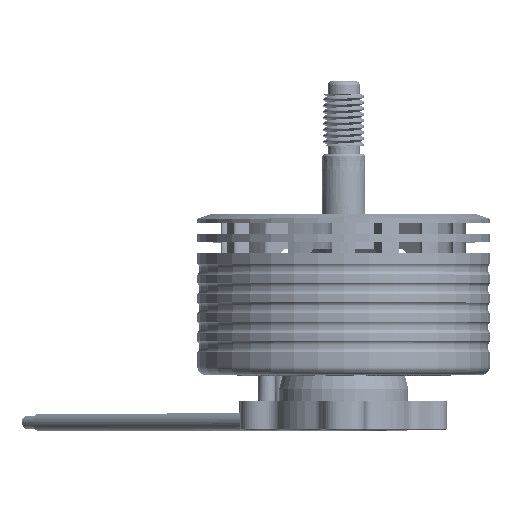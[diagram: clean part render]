
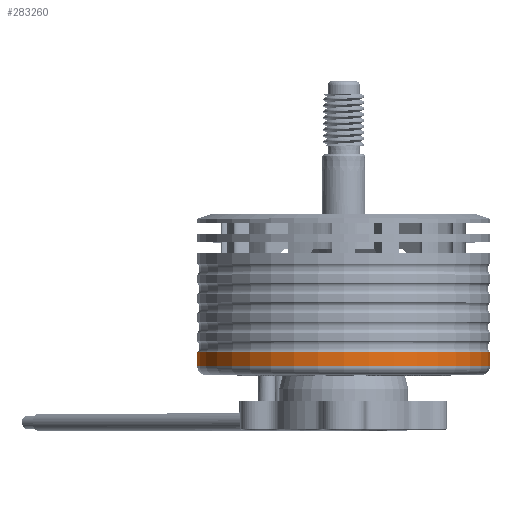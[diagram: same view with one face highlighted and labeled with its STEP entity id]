
A CAD part, top view. The second image highlights one B-rep face of the part: STEP entity #283260.
In plain terms, the highlighted cylindrical face has radius 17 mm (diameter 34 mm), a partial arc.
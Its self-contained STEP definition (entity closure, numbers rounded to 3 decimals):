
#7478 = ORIENTED_EDGE ( 'NONE', *, *, #26896, .T. ) ;
#10502 = DIRECTION ( 'NONE',  ( 1., 0., 0. ) ) ;
#15872 = ORIENTED_EDGE ( 'NONE', *, *, #100730, .F. ) ;
#26896 = EDGE_CURVE ( 'NONE', #247321, #248301, #87580, .T. ) ;
#42703 = VERTEX_POINT ( 'NONE', #162325 ) ;
#44277 = EDGE_LOOP ( 'NONE', ( #15872, #227075, #59670, #7478 ) ) ;
#55473 = CYLINDRICAL_SURFACE ( 'NONE', #293647, 17. ) ;
#58718 = LINE ( 'NONE', #220481, #194841 ) ;
#59670 = ORIENTED_EDGE ( 'NONE', *, *, #100468, .T. ) ;
#67910 = DIRECTION ( 'NONE',  ( 1., 0., 0. ) ) ;
#87580 = CIRCLE ( 'NONE', #92283, 17. ) ;
#88938 = DIRECTION ( 'NONE',  ( 0., -1., 0. ) ) ;
#92283 = AXIS2_PLACEMENT_3D ( 'NONE', #202768, #88938, #67910 ) ;
#100468 = EDGE_CURVE ( 'NONE', #42703, #247321, #58718, .T. ) ;
#100730 = EDGE_CURVE ( 'NONE', #163757, #248301, #259228, .T. ) ;
#103375 = DIRECTION ( 'NONE',  ( 0., 1., 0. ) ) ;
#113609 = AXIS2_PLACEMENT_3D ( 'NONE', #216082, #174098, #265478 ) ;
#119924 = FACE_OUTER_BOUND ( 'NONE', #44277, .T. ) ;
#121404 = DIRECTION ( 'NONE',  ( 0., 1., 0. ) ) ;
#124368 = CARTESIAN_POINT ( 'NONE',  ( 0., -13.808, 0. ) ) ;
#124706 = DIRECTION ( 'NONE',  ( 0., 1., 0. ) ) ;
#140821 = CARTESIAN_POINT ( 'NONE',  ( -17., -10.5, 0. ) ) ;
#158967 = CARTESIAN_POINT ( 'NONE',  ( -17., -12.15, 0. ) ) ;
#162325 = CARTESIAN_POINT ( 'NONE',  ( 17., -12.15, 0. ) ) ;
#163757 = VERTEX_POINT ( 'NONE', #158967 ) ;
#174098 = DIRECTION ( 'NONE',  ( 0., 1., 0. ) ) ;
#187347 = CARTESIAN_POINT ( 'NONE',  ( -17., -12.15, 0. ) ) ;
#194841 = VECTOR ( 'NONE', #124706, 1000. ) ;
#202768 = CARTESIAN_POINT ( 'NONE',  ( 0., -10.5, 0. ) ) ;
#214125 = CIRCLE ( 'NONE', #113609, 17. ) ;
#216082 = CARTESIAN_POINT ( 'NONE',  ( 0., -12.15, 0. ) ) ;
#220481 = CARTESIAN_POINT ( 'NONE',  ( 17., -12.15, 0. ) ) ;
#227075 = ORIENTED_EDGE ( 'NONE', *, *, #233575, .T. ) ;
#233575 = EDGE_CURVE ( 'NONE', #163757, #42703, #214125, .T. ) ;
#246892 = CARTESIAN_POINT ( 'NONE',  ( 17., -10.5, 0. ) ) ;
#247321 = VERTEX_POINT ( 'NONE', #246892 ) ;
#248301 = VERTEX_POINT ( 'NONE', #140821 ) ;
#251697 = VECTOR ( 'NONE', #121404, 1000. ) ;
#259228 = LINE ( 'NONE', #187347, #251697 ) ;
#265478 = DIRECTION ( 'NONE',  ( -1., 0., 0. ) ) ;
#283260 = ADVANCED_FACE ( 'NONE', ( #119924 ), #55473, .T. ) ;
#293647 = AXIS2_PLACEMENT_3D ( 'NONE', #124368, #103375, #10502 ) ;
